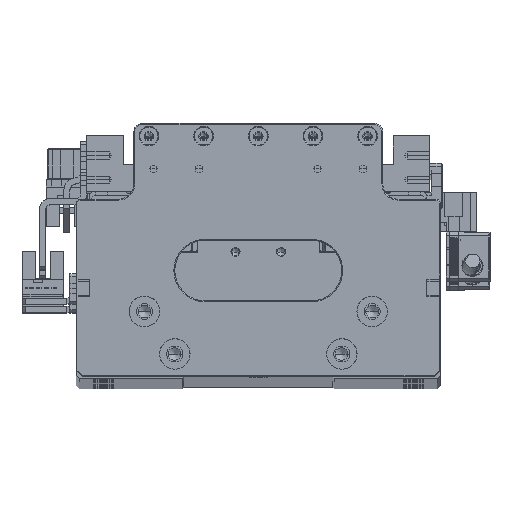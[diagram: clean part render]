
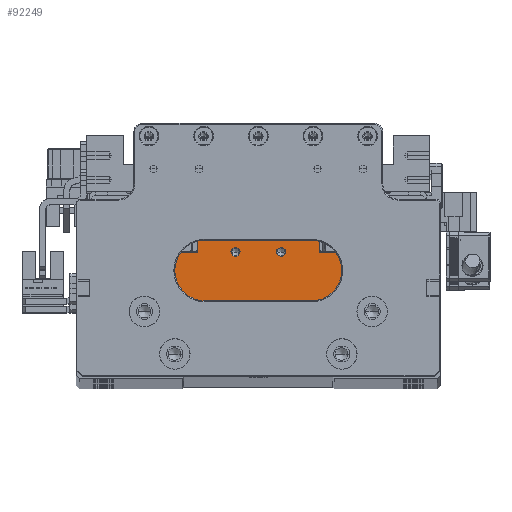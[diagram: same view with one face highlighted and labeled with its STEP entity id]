
A CAD part, top view. The second image highlights one B-rep face of the part: STEP entity #92249.
In plain terms, the highlighted planar face has unit normal (0, 0, 1).
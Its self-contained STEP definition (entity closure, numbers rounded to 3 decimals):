
#1378 = CARTESIAN_POINT ( 'NONE',  ( 5.806, 6.304, 411.036 ) ) ;
#1701 = CARTESIAN_POINT ( 'NONE',  ( -9.194, 6.304, 411.036 ) ) ;
#2936 = CARTESIAN_POINT ( 'NONE',  ( 18.306, -1.296, 411.036 ) ) ;
#3443 = DIRECTION ( 'NONE',  ( 1., 0., 0. ) ) ;
#4191 = DIRECTION ( 'NONE',  ( 0., -1., 0. ) ) ;
#5355 = CARTESIAN_POINT ( 'NONE',  ( -31.594, 6.204, 411.036 ) ) ;
#6806 = CIRCLE ( 'NONE', #111542, 1.525 ) ;
#7340 = EDGE_LOOP ( 'NONE', ( #38934, #113588 ) ) ;
#8004 = ORIENTED_EDGE ( 'NONE', *, *, #134229, .F. ) ;
#12365 = DIRECTION ( 'NONE',  ( 1., 0., 0. ) ) ;
#12681 = DIRECTION ( 'NONE',  ( 1., 0., 0. ) ) ;
#13212 = PLANE ( 'NONE',  #107482 ) ;
#13229 = CARTESIAN_POINT ( 'NONE',  ( 28.206, -12.996, 411.036 ) ) ;
#15680 = CARTESIAN_POINT ( 'NONE',  ( -21.694, 10.204, 411.036 ) ) ;
#15994 = VECTOR ( 'NONE', #64919, 1000. ) ;
#16869 = VERTEX_POINT ( 'NONE', #15680 ) ;
#21460 = LINE ( 'NONE', #133627, #79544 ) ;
#22987 = CARTESIAN_POINT ( 'NONE',  ( 28.206, 6.204, 411.036 ) ) ;
#26009 = ORIENTED_EDGE ( 'NONE', *, *, #49443, .F. ) ;
#31839 = VERTEX_POINT ( 'NONE', #5355 ) ;
#35725 = CARTESIAN_POINT ( 'NONE',  ( -9.194, 6.304, 411.036 ) ) ;
#35853 = DIRECTION ( 'NONE',  ( 0., -1., 0. ) ) ;
#38934 = ORIENTED_EDGE ( 'NONE', *, *, #62300, .F. ) ;
#38981 = CARTESIAN_POINT ( 'NONE',  ( -7.669, 6.304, 411.036 ) ) ;
#39082 = EDGE_LOOP ( 'NONE', ( #79203, #26009 ) ) ;
#43778 = VERTEX_POINT ( 'NONE', #22987 ) ;
#46151 = DIRECTION ( 'NONE',  ( 1., 0., 0. ) ) ;
#46178 = DIRECTION ( 'NONE',  ( 0., 0., -1. ) ) ;
#46736 = DIRECTION ( 'NONE',  ( 1., 0., 0. ) ) ;
#47046 = ORIENTED_EDGE ( 'NONE', *, *, #103646, .F. ) ;
#49264 = VECTOR ( 'NONE', #117951, 1000. ) ;
#49443 = EDGE_CURVE ( 'NONE', #132669, #103055, #84758, .T. ) ;
#51125 = FACE_BOUND ( 'NONE', #7340, .T. ) ;
#53725 = ORIENTED_EDGE ( 'NONE', *, *, #131144, .F. ) ;
#57476 = EDGE_CURVE ( 'NONE', #43778, #132587, #67389, .T. ) ;
#59091 = CARTESIAN_POINT ( 'NONE',  ( -9.194, 10.204, 411.036 ) ) ;
#61140 = CIRCLE ( 'NONE', #65041, 1.525 ) ;
#61984 = ORIENTED_EDGE ( 'NONE', *, *, #95708, .F. ) ;
#62300 = EDGE_CURVE ( 'NONE', #111079, #110200, #61140, .T. ) ;
#62626 = VECTOR ( 'NONE', #127666, 1000. ) ;
#64919 = DIRECTION ( 'NONE',  ( 1., 0., 0. ) ) ;
#65041 = AXIS2_PLACEMENT_3D ( 'NONE', #1701, #78071, #12681 ) ;
#65490 = EDGE_LOOP ( 'NONE', ( #116124, #47046, #121317, #104052, #61984, #8004, #74539, #53725 ) ) ;
#67144 = CARTESIAN_POINT ( 'NONE',  ( -10.719, 6.304, 411.036 ) ) ;
#67389 = LINE ( 'NONE', #91543, #125609 ) ;
#68805 = VECTOR ( 'NONE', #35853, 1000. ) ;
#68816 = DIRECTION ( 'NONE',  ( 0., 0., 1. ) ) ;
#70019 = DIRECTION ( 'NONE',  ( 1., 0., 0. ) ) ;
#72273 = CARTESIAN_POINT ( 'NONE',  ( 18.306, 10.204, 411.036 ) ) ;
#74539 = ORIENTED_EDGE ( 'NONE', *, *, #76084, .F. ) ;
#76084 = EDGE_CURVE ( 'NONE', #16869, #107243, #127682, .T. ) ;
#76689 = CARTESIAN_POINT ( 'NONE',  ( -31.594, -12.996, 411.036 ) ) ;
#77585 = CIRCLE ( 'NONE', #102966, 1.525 ) ;
#77754 = DIRECTION ( 'NONE',  ( 0., 0., 1. ) ) ;
#78071 = DIRECTION ( 'NONE',  ( 0., 0., 1. ) ) ;
#79008 = VERTEX_POINT ( 'NONE', #103123 ) ;
#79203 = ORIENTED_EDGE ( 'NONE', *, *, #137412, .F. ) ;
#79544 = VECTOR ( 'NONE', #46151, 1000. ) ;
#79924 = VERTEX_POINT ( 'NONE', #76689 ) ;
#80006 = CARTESIAN_POINT ( 'NONE',  ( 4.281, 6.304, 411.036 ) ) ;
#81718 = EDGE_CURVE ( 'NONE', #31839, #92752, #21460, .T. ) ;
#82203 = LINE ( 'NONE', #89211, #130178 ) ;
#83537 = FACE_OUTER_BOUND ( 'NONE', #65490, .T. ) ;
#84758 = CIRCLE ( 'NONE', #132777, 1.525 ) ;
#89211 = CARTESIAN_POINT ( 'NONE',  ( -9.194, -12.996, 411.036 ) ) ;
#91543 = CARTESIAN_POINT ( 'NONE',  ( 28.206, -1.296, 411.036 ) ) ;
#92249 = ADVANCED_FACE ( 'NONE', ( #83537, #134943, #51125 ), #13212, .F. ) ;
#92752 = VERTEX_POINT ( 'NONE', #121535 ) ;
#95708 = EDGE_CURVE ( 'NONE', #79008, #43778, #99803, .T. ) ;
#95896 = CARTESIAN_POINT ( 'NONE',  ( -31.594, -1.296, 411.036 ) ) ;
#97915 = LINE ( 'NONE', #2936, #68805 ) ;
#99803 = LINE ( 'NONE', #130463, #15994 ) ;
#100626 = CARTESIAN_POINT ( 'NONE',  ( -9.194, -1.296, 411.036 ) ) ;
#102966 = AXIS2_PLACEMENT_3D ( 'NONE', #35725, #112182, #46736 ) ;
#103055 = VERTEX_POINT ( 'NONE', #119827 ) ;
#103123 = CARTESIAN_POINT ( 'NONE',  ( 18.306, 6.204, 411.036 ) ) ;
#103646 = EDGE_CURVE ( 'NONE', #79924, #31839, #136524, .T. ) ;
#104052 = ORIENTED_EDGE ( 'NONE', *, *, #57476, .F. ) ;
#105210 = CARTESIAN_POINT ( 'NONE',  ( -21.694, -1.296, 411.036 ) ) ;
#105458 = VECTOR ( 'NONE', #70019, 1000. ) ;
#107243 = VERTEX_POINT ( 'NONE', #72273 ) ;
#107482 = AXIS2_PLACEMENT_3D ( 'NONE', #100626, #46178, #122640 ) ;
#110200 = VERTEX_POINT ( 'NONE', #67144 ) ;
#111079 = VERTEX_POINT ( 'NONE', #38981 ) ;
#111234 = DIRECTION ( 'NONE',  ( 1., 0., 0. ) ) ;
#111542 = AXIS2_PLACEMENT_3D ( 'NONE', #1378, #77754, #12365 ) ;
#112182 = DIRECTION ( 'NONE',  ( 0., 0., 1. ) ) ;
#113588 = ORIENTED_EDGE ( 'NONE', *, *, #133132, .F. ) ;
#116124 = ORIENTED_EDGE ( 'NONE', *, *, #81718, .F. ) ;
#117951 = DIRECTION ( 'NONE',  ( 0., 1., 0. ) ) ;
#119827 = CARTESIAN_POINT ( 'NONE',  ( 7.331, 6.304, 411.036 ) ) ;
#121317 = ORIENTED_EDGE ( 'NONE', *, *, #128788, .T. ) ;
#121535 = CARTESIAN_POINT ( 'NONE',  ( -21.694, 6.204, 411.036 ) ) ;
#122640 = DIRECTION ( 'NONE',  ( -1., 0., 0. ) ) ;
#124276 = LINE ( 'NONE', #105210, #62626 ) ;
#125609 = VECTOR ( 'NONE', #4191, 1000. ) ;
#127666 = DIRECTION ( 'NONE',  ( 0., 1., 0. ) ) ;
#127682 = LINE ( 'NONE', #59091, #105458 ) ;
#128788 = EDGE_CURVE ( 'NONE', #79924, #132587, #82203, .T. ) ;
#130178 = VECTOR ( 'NONE', #111234, 1000. ) ;
#130463 = CARTESIAN_POINT ( 'NONE',  ( -9.194, 6.204, 411.036 ) ) ;
#131144 = EDGE_CURVE ( 'NONE', #92752, #16869, #124276, .T. ) ;
#132587 = VERTEX_POINT ( 'NONE', #13229 ) ;
#132669 = VERTEX_POINT ( 'NONE', #80006 ) ;
#132777 = AXIS2_PLACEMENT_3D ( 'NONE', #134411, #68816, #3443 ) ;
#133132 = EDGE_CURVE ( 'NONE', #110200, #111079, #77585, .T. ) ;
#133627 = CARTESIAN_POINT ( 'NONE',  ( -9.194, 6.204, 411.036 ) ) ;
#134229 = EDGE_CURVE ( 'NONE', #107243, #79008, #97915, .T. ) ;
#134411 = CARTESIAN_POINT ( 'NONE',  ( 5.806, 6.304, 411.036 ) ) ;
#134943 = FACE_BOUND ( 'NONE', #39082, .T. ) ;
#136524 = LINE ( 'NONE', #95896, #49264 ) ;
#137412 = EDGE_CURVE ( 'NONE', #103055, #132669, #6806, .T. ) ;
